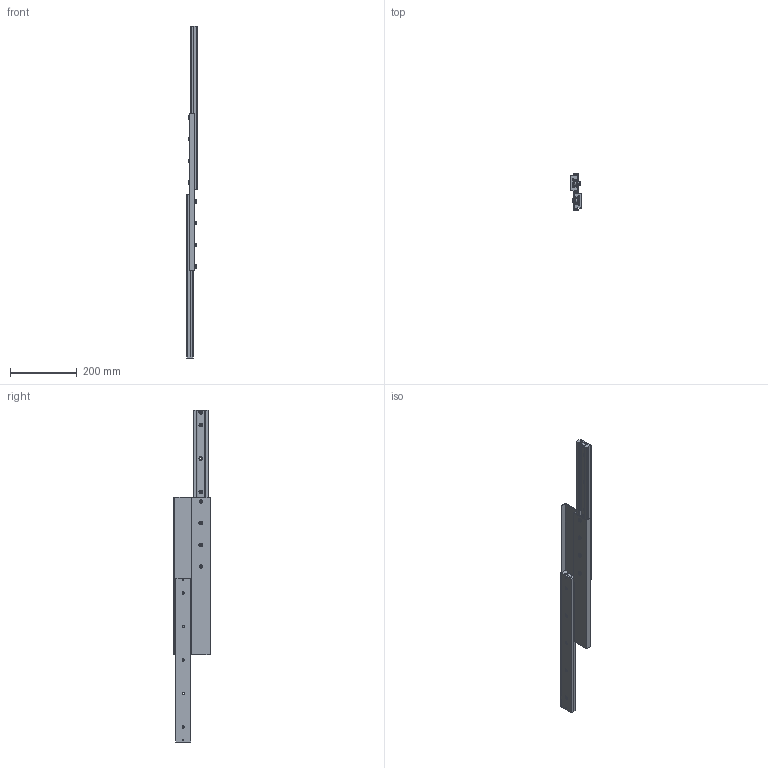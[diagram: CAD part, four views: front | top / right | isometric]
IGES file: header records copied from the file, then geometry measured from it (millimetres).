
Start section: SolidWorks IGES file using analytic representation for surfaces
Global section: file name: C:\Users\tsuch\OneDrive\デスクトップ\LSIMモジュール化図面\LSIM-DV(3D)\iges形式\LSIM45DVL.IGS; native system: SolidWorks 2019; preprocessor: SolidWorks 2019; author: tsuch; date: 210614.084538; units: millimetre
Bounding box: 30.2 x 108.2 x 992 mm (x, y, z)
Surface area: 320120.2 mm2 (no closed solid volume)
Topology: 0 solids, 0 shells, 564 faces, 8964 edges, 8964 vertices
Faces by surface type: revolution 322, bspline 242
